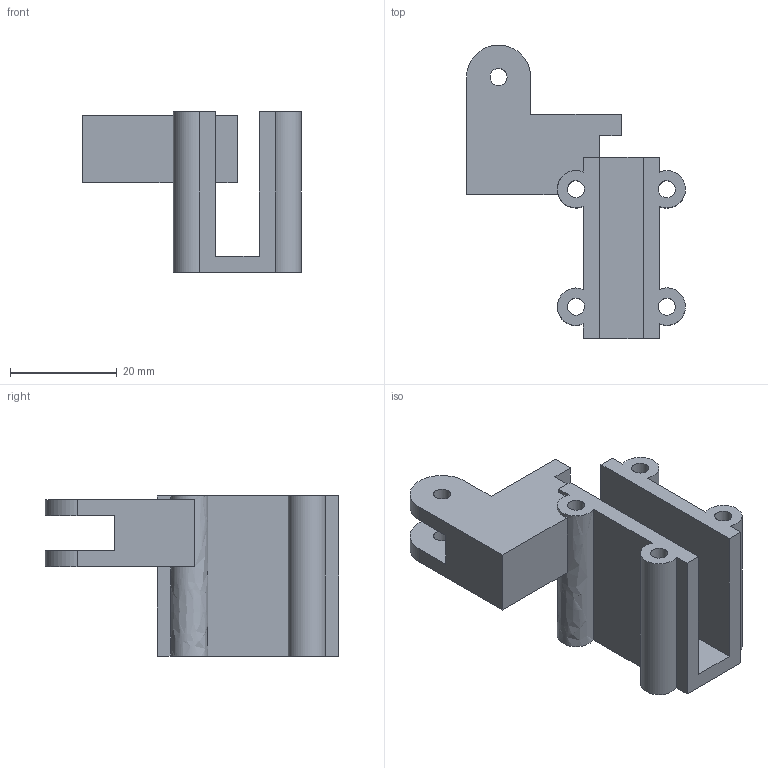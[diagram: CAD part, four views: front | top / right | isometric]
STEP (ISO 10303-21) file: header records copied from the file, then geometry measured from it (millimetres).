
FILE_DESCRIPTION(('STEP'), '1');
FILE_NAME('left-rail-saddle', '2026-11-05T01:20:25', (''), (''), 'Express 3.1.3.0', 'Express Tool', 'Unknown');
FILE_SCHEMA(('AUTOMOTIVE_DESIGN'));
Length unit declared in the file: millimetre
Products named in the file (1): left-rail-saddle
Bounding box: 41 x 54.99 x 30 mm (x, y, z)
Volume: 14682.8 mm3; surface area: 9685.8 mm2
Topology: 1 solids, 1 shells, 41 faces, 117 edges, 78 vertices
Faces by surface type: bspline 41
Entity records: 1611 total; most frequent: CARTESIAN_POINT 843, ORIENTED_EDGE 234, EDGE_CURVE 117, B_SPLINE_CURVE_WITH_KNOTS 87, VERTEX_POINT 78, EDGE_LOOP 53, ADVANCED_FACE 41, FACE_OUTER_BOUND 41
